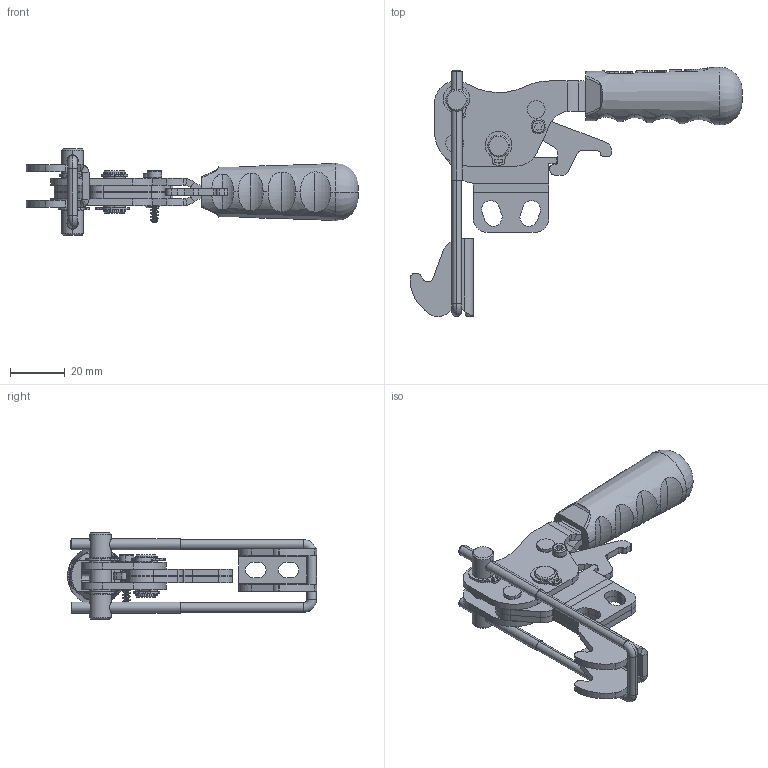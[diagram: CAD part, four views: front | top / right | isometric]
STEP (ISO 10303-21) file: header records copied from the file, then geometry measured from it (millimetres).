
FILE_DESCRIPTION (( 'STEP AP203' ), '1' );
FILE_NAME ('13205_D_K.STEP', '2022-11-29T14:44:27', ( '' ), ( '' ), 'SwSTEP 2.0', 'SolidWorks 2023', '' );
FILE_SCHEMA (( 'CONFIG_CONTROL_DESIGN' ));
Length unit declared in the file: millimetre
Products named in the file (14): 13205_D_K; DIN 471 Ø8 Segman_Circlip DIN 471 - 8 x 0.8; C55_Yeni_Tutamak_Varsayılan; M4x40_U_KANCA_Varsayılan; Aynalama13105 Hareket Kolu_Varsayılan; 4x12_5_PERÇİN_Varsayılan; 13105 Gövde_Varsayılan; Aynalama13105 Gövde_Varsayılan; 13105 Hareket Kolu_Varsayılan; M4_KK_2; 13105 Kilit Deneme 3_Varsayılan; dikey kullanım cap 8 mili_Varsayılan; Ø8xM4 U Kanca_Varsayılan; M3x16 Imbus Civata
Assembly tree (17 placements, depth 2):
  13205_D_K
    13105 Gövde_Varsayılan
    13105 Hareket Kolu_Varsayılan
    Aynalama13105 Hareket Kolu_Varsayılan
    Aynalama13105 Gövde_Varsayılan
    4x12_5_PERÇİN_Varsayılan  x2
    M3x16 Imbus Civata
    Ø8xM4 U Kanca_Varsayılan
    DIN 471 Ø8 Segman_Circlip DIN 471 - 8 x 0.8  x4
    C55_Yeni_Tutamak_Varsayılan
    M4x40_U_KANCA_Varsayılan
    13105 Kilit Deneme 3_Varsayılan
    dikey kullanım cap 8 mili_Varsayılan
    M4_KK_2
Bounding box: 121.05 x 90.91 x 31.5 mm (x, y, z)
Volume: 33386.7 mm3; surface area: 26888.1 mm2
Topology: 17 solids, 17 shells, 736 faces, 1892 edges, 1212 vertices
Faces by surface type: plane 382, cylinder 289, torus 32, bspline 17, cone 16
Entity records: 27949 total; most frequent: CARTESIAN_POINT 11780, ORIENTED_EDGE 3054, DIRECTION 3048, EDGE_CURVE 1527, AXIS2_PLACEMENT_3D 1064, VERTEX_POINT 974, LINE 920, VECTOR 920
